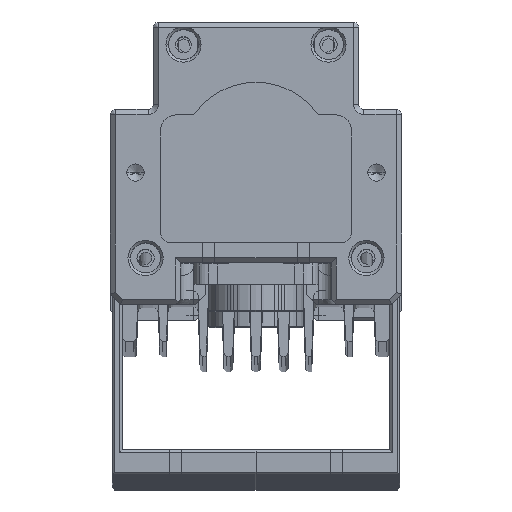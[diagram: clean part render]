
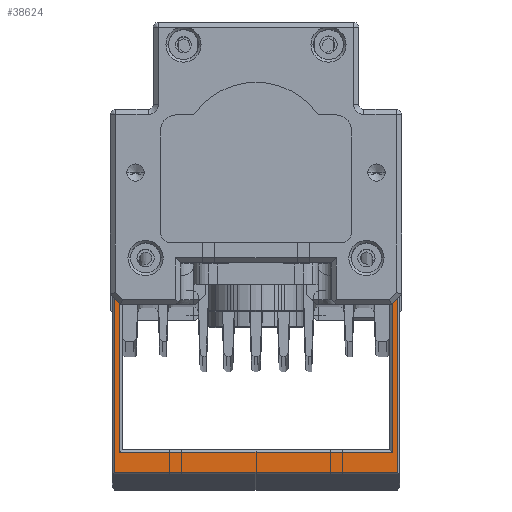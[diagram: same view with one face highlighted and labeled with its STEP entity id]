
A CAD part, top view. The second image highlights one B-rep face of the part: STEP entity #38624.
In plain terms, the highlighted planar face has unit normal (0, 0, 1).
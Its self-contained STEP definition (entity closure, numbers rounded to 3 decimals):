
#37602=DIRECTION('',(1.,0.,0.));
#37603=VECTOR('',#37602,5.15);
#37604=CARTESIAN_POINT('',(23.,-20.6,22.));
#37605=LINE('',#37604,#37603);
#37606=DIRECTION('',(0.,-1.,0.));
#37607=VECTOR('',#37606,40.5);
#37608=CARTESIAN_POINT('',(28.15,-20.6,22.));
#37609=LINE('',#37608,#37607);
#37610=DIRECTION('',(-1.,0.,0.));
#37611=VECTOR('',#37610,56.3);
#37612=CARTESIAN_POINT('',(28.15,-61.1,22.));
#37613=LINE('',#37612,#37611);
#37614=DIRECTION('',(0.,1.,0.));
#37615=VECTOR('',#37614,40.5);
#37616=CARTESIAN_POINT('',(-28.15,-61.1,22.));
#37617=LINE('',#37616,#37615);
#37618=DIRECTION('',(1.,0.,0.));
#37619=VECTOR('',#37618,5.15);
#37620=CARTESIAN_POINT('',(-28.15,-20.6,22.));
#37621=LINE('',#37620,#37619);
#37622=DIRECTION('',(0.,-1.,0.));
#37623=VECTOR('',#37622,1.);
#37624=CARTESIAN_POINT('',(-23.,-20.6,22.));
#37625=LINE('',#37624,#37623);
#37626=DIRECTION('',(-1.,0.,0.));
#37627=VECTOR('',#37626,4.15);
#37628=CARTESIAN_POINT('',(-23.,-21.6,22.));
#37629=LINE('',#37628,#37627);
#37630=DIRECTION('',(0.,-1.,0.));
#37631=VECTOR('',#37630,35.5);
#37632=CARTESIAN_POINT('',(-27.15,-21.6,22.));
#37633=LINE('',#37632,#37631);
#37634=DIRECTION('',(1.,0.,0.));
#37635=VECTOR('',#37634,54.3);
#37636=CARTESIAN_POINT('',(-27.15,-57.1,22.));
#37637=LINE('',#37636,#37635);
#37638=DIRECTION('',(0.,1.,0.));
#37639=VECTOR('',#37638,35.5);
#37640=CARTESIAN_POINT('',(27.15,-57.1,22.));
#37641=LINE('',#37640,#37639);
#37642=DIRECTION('',(-1.,0.,0.));
#37643=VECTOR('',#37642,4.15);
#37644=CARTESIAN_POINT('',(27.15,-21.6,22.));
#37645=LINE('',#37644,#37643);
#37646=DIRECTION('',(0.,1.,0.));
#37647=VECTOR('',#37646,1.);
#37648=CARTESIAN_POINT('',(23.,-21.6,22.));
#37649=LINE('',#37648,#37647);
#37982=CARTESIAN_POINT('',(-23.,-21.6,22.));
#37983=VERTEX_POINT('',#37982);
#37984=CARTESIAN_POINT('',(-23.,-20.6,22.));
#37985=VERTEX_POINT('',#37984);
#38026=CARTESIAN_POINT('',(-28.15,-20.6,22.));
#38027=VERTEX_POINT('',#38026);
#38028=CARTESIAN_POINT('',(-28.15,-61.1,22.));
#38029=VERTEX_POINT('',#38028);
#38030=CARTESIAN_POINT('',(23.,-20.6,22.));
#38031=CARTESIAN_POINT('',(28.15,-20.6,22.));
#38032=VERTEX_POINT('',#38030);
#38033=VERTEX_POINT('',#38031);
#38034=CARTESIAN_POINT('',(28.15,-61.1,22.));
#38035=VERTEX_POINT('',#38034);
#38036=CARTESIAN_POINT('',(-27.15,-21.6,22.));
#38037=VERTEX_POINT('',#38036);
#38038=CARTESIAN_POINT('',(-27.15,-57.1,22.));
#38039=VERTEX_POINT('',#38038);
#38040=CARTESIAN_POINT('',(27.15,-57.1,22.));
#38041=VERTEX_POINT('',#38040);
#38042=CARTESIAN_POINT('',(27.15,-21.6,22.));
#38043=VERTEX_POINT('',#38042);
#38044=CARTESIAN_POINT('',(23.,-21.6,22.));
#38045=VERTEX_POINT('',#38044);
#38600=CARTESIAN_POINT('',(0.,0.,22.));
#38601=DIRECTION('',(0.,0.,1.));
#38602=DIRECTION('',(-1.,0.,0.));
#38603=AXIS2_PLACEMENT_3D('',#38600,#38601,#38602);
#38604=PLANE('',#38603);
#38605=ORIENTED_EDGE('',*,*,#38436,.T.);
#38606=ORIENTED_EDGE('',*,*,#38456,.T.);
#38607=ORIENTED_EDGE('',*,*,#38548,.T.);
#38608=ORIENTED_EDGE('',*,*,#38564,.T.);
#38609=ORIENTED_EDGE('',*,*,#38582,.T.);
#38610=ORIENTED_EDGE('',*,*,#38292,.T.);
#38612=ORIENTED_EDGE('',*,*,#38611,.T.);
#38614=ORIENTED_EDGE('',*,*,#38613,.T.);
#38616=ORIENTED_EDGE('',*,*,#38615,.T.);
#38618=ORIENTED_EDGE('',*,*,#38617,.T.);
#38620=ORIENTED_EDGE('',*,*,#38619,.T.);
#38621=ORIENTED_EDGE('',*,*,#38415,.T.);
#38622=EDGE_LOOP('',(#38605,#38606,#38607,#38608,#38609,#38610,#38612,#38614,
#38616,#38618,#38620,#38621));
#38623=FACE_OUTER_BOUND('',#38622,.F.);
#38292=EDGE_CURVE('',#37985,#37983,#37625,.T.);
#38415=EDGE_CURVE('',#38045,#38032,#37649,.T.);
#38436=EDGE_CURVE('',#38032,#38033,#37605,.T.);
#38456=EDGE_CURVE('',#38033,#38035,#37609,.T.);
#38548=EDGE_CURVE('',#38035,#38029,#37613,.T.);
#38564=EDGE_CURVE('',#38029,#38027,#37617,.T.);
#38582=EDGE_CURVE('',#38027,#37985,#37621,.T.);
#38611=EDGE_CURVE('',#37983,#38037,#37629,.T.);
#38613=EDGE_CURVE('',#38037,#38039,#37633,.T.);
#38615=EDGE_CURVE('',#38039,#38041,#37637,.T.);
#38617=EDGE_CURVE('',#38041,#38043,#37641,.T.);
#38619=EDGE_CURVE('',#38043,#38045,#37645,.T.);
#38624=ADVANCED_FACE('',(#38623),#38604,.T.);
